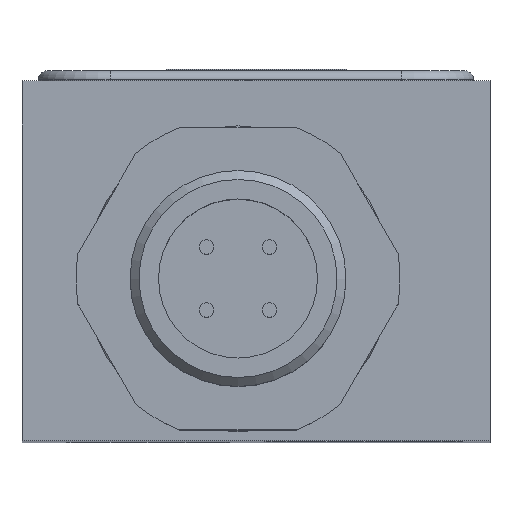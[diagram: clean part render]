
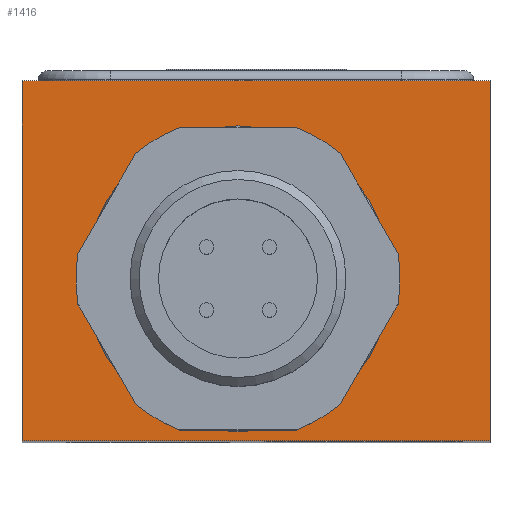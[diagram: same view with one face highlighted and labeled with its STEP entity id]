
A CAD part, top view. The second image highlights one B-rep face of the part: STEP entity #1416.
In plain terms, the highlighted planar face has unit normal (0, 0, 1).
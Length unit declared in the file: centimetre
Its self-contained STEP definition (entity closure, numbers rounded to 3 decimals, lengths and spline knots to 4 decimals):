
#144=CIRCLE('',#1575,0.75);
#256=VERTEX_POINT('',#2259);
#258=VERTEX_POINT('',#2263);
#271=VERTEX_POINT('',#2290);
#272=VERTEX_POINT('',#2292);
#285=VERTEX_POINT('',#2349);
#368=VECTOR('',#1868,1.);
#375=VECTOR('',#1888,1.);
#378=VECTOR('',#1892,1.);
#379=VECTOR('',#1894,1.);
#472=LINE('',#2264,#368);
#479=LINE('',#2291,#375);
#482=LINE('',#2296,#378);
#483=LINE('',#2298,#379);
#646=EDGE_CURVE('',#258,#256,#472,.T.);
#659=EDGE_CURVE('',#271,#272,#479,.T.);
#662=EDGE_CURVE('',#256,#271,#482,.T.);
#663=EDGE_CURVE('',#272,#258,#483,.T.);
#685=EDGE_CURVE('',#285,#285,#144,.T.);
#1047=ORIENTED_EDGE('',*,*,#659,.F.);
#1048=ORIENTED_EDGE('',*,*,#662,.F.);
#1049=ORIENTED_EDGE('',*,*,#646,.F.);
#1050=ORIENTED_EDGE('',*,*,#663,.F.);
#1051=ORIENTED_EDGE('',*,*,#685,.F.);
#1189=EDGE_LOOP('',(#1047,#1048,#1049,#1050));
#1190=EDGE_LOOP('',(#1051));
#1317=FACE_BOUND('',#1189,.T.);
#1318=FACE_BOUND('',#1190,.T.);
#1416=ADVANCED_FACE('',(#1317,#1318),#2398,.T.);
#1574=AXIS2_PLACEMENT_3D('',#2347,#1947,$);
#1575=AXIS2_PLACEMENT_3D('',#2348,#1948,#1949);
#1868=DIRECTION('',(-1.,0.,0.));
#1888=DIRECTION('',(1.,0.,0.));
#1892=DIRECTION('',(0.,1.,0.));
#1894=DIRECTION('',(0.,-1.,0.));
#1947=DIRECTION('',(0.,0.,1.));
#1948=DIRECTION('',(0.,0.,1.));
#1949=DIRECTION('',(0.75,0.,0.));
#2259=CARTESIAN_POINT('',(-1.3,0.,3.5));
#2263=CARTESIAN_POINT('',(1.3,0.,3.5));
#2264=CARTESIAN_POINT('',(-1.3,0.,3.5));
#2290=CARTESIAN_POINT('',(-1.3,2.,3.5));
#2291=CARTESIAN_POINT('',(1.3,2.,3.5));
#2292=CARTESIAN_POINT('',(1.3,2.,3.5));
#2296=CARTESIAN_POINT('',(-1.3,2.,3.5));
#2298=CARTESIAN_POINT('',(1.3,0.,3.5));
#2347=CARTESIAN_POINT('',(0.,1.,3.5));
#2348=CARTESIAN_POINT('',(-0.1,0.9,3.5));
#2349=CARTESIAN_POINT('',(-0.1,1.65,3.5));
#2398=PLANE('',#1574);
